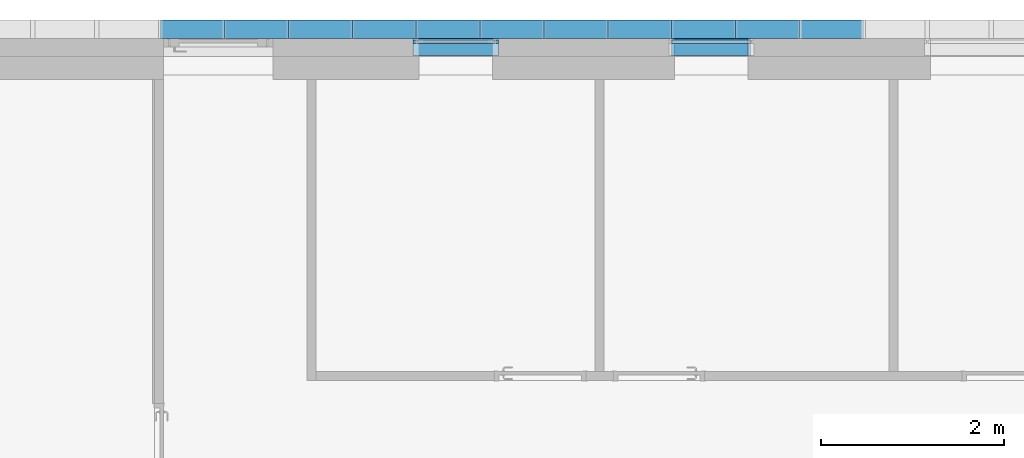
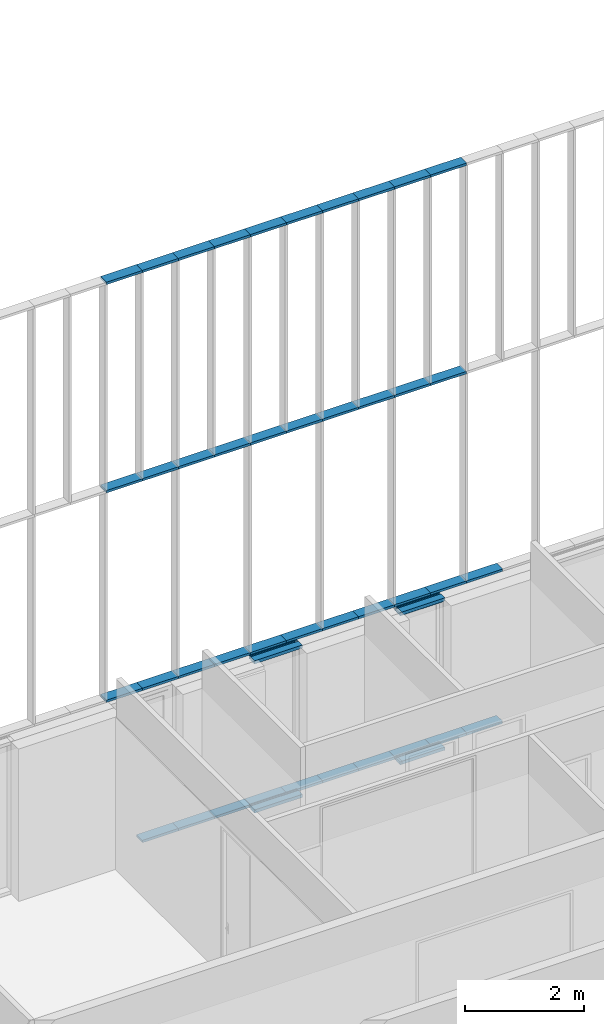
# One storey, part 41 of 240: 47 members, 3 elements without a shape of their own.
"""IFC2X3 building model written with IfcOpenShell, lengths in centimetres."""

from ifc_helpers import new_model, entity, si_unit, converted_unit, derived_unit, direction, frame, origin, origin_2d_with_axis, place, context, subcontext, project, spatial, polyline, rectangle, outline, extrude, source, transform, mapped, material, type_object, type_shapes, element, aggregate, save


model = new_model("IFC2X3")

# Units and contexts
model_context = context("Model", 3, precision=0.001, world=origin(), true_north=direction((6.12303176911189e-17, 1.0)))
body_context = subcontext(model_context, "Body", "Model", "MODEL_VIEW")
ifc_project = project(units=[si_unit("LENGTHUNIT", "METRE", prefix="CENTI"), si_unit("AREAUNIT", "SQUARE_METRE"), si_unit("VOLUMEUNIT", "CUBIC_METRE"), converted_unit("PLANEANGLEUNIT", "DEGREE", entity("IfcRatioMeasure", 0.0174532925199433), si_unit("PLANEANGLEUNIT", "RADIAN"), dimensions=[0, 0, 0, 0, 0, 0, 0]), si_unit("MASSUNIT", "GRAM", prefix="KILO"), derived_unit("MASSDENSITYUNIT", [(si_unit("MASSUNIT", "GRAM", prefix="KILO"), 1), (si_unit("LENGTHUNIT", "METRE"), -3)]), si_unit("TIMEUNIT", "SECOND"), si_unit("FREQUENCYUNIT", "HERTZ"), si_unit("THERMODYNAMICTEMPERATUREUNIT", "DEGREE_CELSIUS"), derived_unit("THERMALTRANSMITTANCEUNIT", [(si_unit("MASSUNIT", "GRAM", prefix="KILO"), 1), (si_unit("THERMODYNAMICTEMPERATUREUNIT", "KELVIN"), -1), (si_unit("TIMEUNIT", "SECOND"), -3)]), derived_unit("VOLUMETRICFLOWRATEUNIT", [(si_unit("LENGTHUNIT", "METRE"), 3), (si_unit("TIMEUNIT", "SECOND"), -1)]), si_unit("ELECTRICCURRENTUNIT", "AMPERE"), si_unit("ELECTRICVOLTAGEUNIT", "VOLT"), si_unit("POWERUNIT", "WATT"), si_unit("FORCEUNIT", "NEWTON", prefix="KILO"), si_unit("ILLUMINANCEUNIT", "LUX"), si_unit("LUMINOUSFLUXUNIT", "LUMEN"), si_unit("LUMINOUSINTENSITYUNIT", "CANDELA"), derived_unit("USERDEFINED", [(si_unit("MASSUNIT", "GRAM", prefix="KILO"), -1), (si_unit("LENGTHUNIT", "METRE"), -2), (si_unit("TIMEUNIT", "SECOND"), 3), (si_unit("LUMINOUSFLUXUNIT", "LUMEN"), 1)]), derived_unit("LINEARVELOCITYUNIT", [(si_unit("LENGTHUNIT", "METRE"), 1), (si_unit("TIMEUNIT", "SECOND"), -1)]), si_unit("PRESSUREUNIT", "PASCAL"), derived_unit("USERDEFINED", [(si_unit("LENGTHUNIT", "METRE"), -2), (si_unit("MASSUNIT", "GRAM", prefix="KILO"), 1), (si_unit("TIMEUNIT", "SECOND"), -2)])], contexts=[model_context])

# Site, building, storey
site_placement = place(None, frame((-2781.94577612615, 7442.24238424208, 0.0)))
site = spatial("IfcSite", under=ifc_project, at=site_placement, Name="Default", CompositionType="ELEMENT")
building_placement = place(site_placement, origin())
building = spatial("IfcBuilding", under=site, at=building_placement, CompositionType="ELEMENT")
storey_placement = place(building_placement, origin())
storey = spatial("IfcBuildingStorey", under=building, at=storey_placement, Name="N00 - COO", CompositionType="ELEMENT", Elevation=0.0)

# Curtain wall, members
curtain_wall_type_1 = type_object("IfcCurtainWallType", Name="Mur-rideau:07 - mur rideau trame 90 cm", PredefinedType="NOTDEFINED")
curtain_wall_1_placement = place(building_placement, origin())
curtain_wall_1 = element("IfcCurtainWall", 1, at=curtain_wall_1_placement, inside=storey, type_object=curtain_wall_type_1, Name="Mur-rideau:07 - mur rideau trame 90 cm", ObjectType="Mur-rideau:07 - mur rideau trame 90 cm")
ifc_material = material(Name="Aluminium")
member_type_1 = type_object("IfcMemberType", Name="150 x 25mm Détails", PredefinedType="MEMBER")
shared_shape_1 = source(origin(), body_context, "Body", "SweptSolid", [
    extrude(outline(polyline([(-13.3333333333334, -3.24999999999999), (0.166666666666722, -3.24999999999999), (0.166666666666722, -0.868749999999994), (3.66666666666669, -0.868749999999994), (3.66666666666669, -3.25), (5.66666666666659, -3.25), (5.66666666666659, 3.24999999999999), (3.66666666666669, 3.24999999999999), (3.66666666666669, 0.86874999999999), (0.166666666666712, 0.86874999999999), (0.166666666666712, 3.25000000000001), (-13.3333333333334, 3.25000000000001), (-13.3333333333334, -3.24999999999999)])), frame((-3.24999999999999, 1.96666666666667, -83.4999999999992), z_axis=(0.0, 0.0, 1.0), x_axis=(0.0, -1.0, 0.0)), (0.0, 0.0, 1.0), 83.4999999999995),
])
type_shapes(member_type_1, [shared_shape_1])
member_1_placement = place(building_placement, frame((-7006.24987760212, 26.2000000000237, 0.0), z_axis=(-1.0, 0.0, 0.0), x_axis=(0.0, 0.0, -1.0)))
member_1 = element("IfcMember", 2, at=member_1_placement, type_object=member_type_1, material=ifc_material, Name="Meneau rectangulaire:150 x 25mm Détails", ObjectType="Meneau rectangulaire:150 x 25mm Détails", context=body_context, shape_type="MappedRepresentation", body=[
    mapped(shared_shape_1, transform((0.0, 0.0, 0.0), scale=1.0)),
])
member_type_2 = type_object("IfcMemberType", Name="150 x 25mm Détails", PredefinedType="MEMBER")
shared_shape_2 = source(origin(), body_context, "Body", "SweptSolid", [
    extrude(outline(polyline([(-13.3333333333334, -3.25000000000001), (0.166666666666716, -3.25000000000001), (0.166666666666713, -0.86874999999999), (3.66666666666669, -0.86874999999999), (3.66666666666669, -3.24999999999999), (5.66666666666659, -3.24999999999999), (5.66666666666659, 3.25), (3.66666666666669, 3.25), (3.66666666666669, 0.868749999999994), (0.166666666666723, 0.868749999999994), (0.166666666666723, 3.25000000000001), (-13.3333333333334, 3.24999999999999), (-13.3333333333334, -3.25000000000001)])), frame((-3.24999999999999, 1.96666666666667, -83.4999999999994), z_axis=(0.0, 0.0, 1.0), x_axis=(0.0, -1.0, 0.0)), (0.0, 0.0, 1.0), 83.4999999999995),
])
type_shapes(member_type_2, [shared_shape_2])
member_2_placement = place(building_placement, frame((-6922.74987760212, 26.2000000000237, 313.0), z_axis=(1.0, 0.0, 0.0), x_axis=(0.0, 0.0, 1.0)))
member_2 = element("IfcMember", 3, at=member_2_placement, type_object=member_type_2, material=ifc_material, Name="Meneau rectangulaire:150 x 25mm Détails", ObjectType="Meneau rectangulaire:150 x 25mm Détails", context=body_context, shape_type="MappedRepresentation", body=[
    mapped(shared_shape_2, transform((0.0, 0.0, 0.0), scale=1.0)),
])
member_type_3 = type_object("IfcMemberType", Name="150 x 25mm Détails", PredefinedType="MEMBER")
shared_shape_3 = source(origin(), body_context, "Body", "SweptSolid", [
    extrude(outline(polyline([(-13.3333333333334, -3.24999999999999), (0.166666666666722, -3.24999999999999), (0.166666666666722, -0.868749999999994), (3.66666666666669, -0.868749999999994), (3.66666666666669, -3.25), (5.66666666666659, -3.25), (5.66666666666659, 3.24999999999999), (3.66666666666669, 3.24999999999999), (3.66666666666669, 0.86874999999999), (0.166666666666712, 0.86874999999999), (0.166666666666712, 3.25000000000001), (-13.3333333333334, 3.25000000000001), (-13.3333333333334, -3.24999999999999)])), frame((-3.24999999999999, 1.96666666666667, -83.5000000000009), z_axis=(0.0, 0.0, 1.0), x_axis=(0.0, -1.0, 0.0)), (0.0, 0.0, 1.0), 83.5000000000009),
])
type_shapes(member_type_3, [shared_shape_3])
member_3_placement = place(building_placement, frame((-7009.49987760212, 26.2000000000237, 306.0), z_axis=(-1.0, 0.0, 0.0), x_axis=(0.0, 0.0, -1.0)))
member_3 = element("IfcMember", 4, at=member_3_placement, type_object=member_type_3, material=ifc_material, Name="Meneau rectangulaire:150 x 25mm Détails", ObjectType="Meneau rectangulaire:150 x 25mm Détails", context=body_context, shape_type="MappedRepresentation", body=[
    mapped(shared_shape_3, transform((0.0, 0.0, 0.0), scale=1.0)),
])
member_type_4 = type_object("IfcMemberType", Name="150 x 25mm Détails", PredefinedType="MEMBER")
shared_shape_4 = source(origin(), body_context, "Body", "SweptSolid", [
    extrude(outline(polyline([(-13.3333333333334, -3.25000000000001), (0.166666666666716, -3.25000000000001), (0.166666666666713, -0.86874999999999), (3.66666666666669, -0.86874999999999), (3.66666666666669, -3.24999999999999), (5.66666666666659, -3.24999999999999), (5.66666666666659, 3.25), (3.66666666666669, 3.25), (3.66666666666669, 0.868749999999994), (0.166666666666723, 0.868749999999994), (0.166666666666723, 3.25000000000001), (-13.3333333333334, 3.24999999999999), (-13.3333333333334, -3.25000000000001)])), frame((-3.24999999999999, 1.96666666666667, -83.5000000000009), z_axis=(0.0, 0.0, 1.0), x_axis=(0.0, -1.0, 0.0)), (0.0, 0.0, 1.0), 83.5000000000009),
])
type_shapes(member_type_4, [shared_shape_4])
member_4_placement = place(building_placement, frame((-6925.99987760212, 26.2000000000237, 6.5), z_axis=(1.0, 0.0, 0.0), x_axis=(0.0, 0.0, 1.0)))
member_4 = element("IfcMember", 5, at=member_4_placement, type_object=member_type_4, material=ifc_material, Name="Meneau rectangulaire:150 x 25mm Détails", ObjectType="Meneau rectangulaire:150 x 25mm Détails", context=body_context, shape_type="MappedRepresentation", body=[
    mapped(shared_shape_4, transform((0.0, 0.0, 0.0), scale=1.0)),
])
aggregate(curtain_wall_1, [member_1, member_2, member_3, member_4])

curtain_wall_2_placement = place(building_placement, origin())
curtain_wall_2 = element("IfcCurtainWall", 6, at=curtain_wall_2_placement, inside=storey, type_object=curtain_wall_type_1, Name="Mur-rideau:07 - mur rideau trame 90 cm", ObjectType="Mur-rideau:07 - mur rideau trame 90 cm")
member_type_5 = type_object("IfcMemberType", Name="150 x 25mm Détails", PredefinedType="MEMBER")
shared_shape_5 = source(origin(), body_context, "Body", "SweptSolid", [
    extrude(outline(polyline([(-13.3333333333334, -3.24999999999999), (0.166666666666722, -3.24999999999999), (0.166666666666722, -0.868749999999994), (3.66666666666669, -0.868749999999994), (3.66666666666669, -3.25), (5.66666666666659, -3.25), (5.66666666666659, 3.24999999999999), (3.66666666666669, 3.24999999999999), (3.66666666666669, 0.86874999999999), (0.166666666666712, 0.86874999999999), (0.166666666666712, 3.25000000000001), (-13.3333333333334, 3.25000000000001), (-13.3333333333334, -3.24999999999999)])), frame((-3.24999999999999, 1.96666666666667, -93.25000003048), z_axis=(0.0, 0.0, 1.0), x_axis=(0.0, -1.0, 0.0)), (0.0, 0.0, 1.0), 93.25000003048),
])
type_shapes(member_type_5, [shared_shape_5])
member_5_placement = place(building_placement, frame((-7292.74987760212, 26.2000000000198, 0.0), z_axis=(-1.0, 0.0, 0.0), x_axis=(0.0, 0.0, -1.0)))
member_5 = element("IfcMember", 7, at=member_5_placement, type_object=member_type_5, material=ifc_material, Name="Meneau rectangulaire:150 x 25mm Détails", ObjectType="Meneau rectangulaire:150 x 25mm Détails", context=body_context, shape_type="MappedRepresentation", body=[
    mapped(shared_shape_5, transform((0.0, 0.0, 0.0), scale=1.0)),
])
member_type_6 = type_object("IfcMemberType", Name="150 x 25mm Détails", PredefinedType="MEMBER")
shared_shape_6 = source(origin(), body_context, "Body", "SweptSolid", [
    extrude(outline(polyline([(-13.3333333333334, -3.25000000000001), (0.166666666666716, -3.25000000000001), (0.166666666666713, -0.86874999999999), (3.66666666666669, -0.86874999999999), (3.66666666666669, -3.24999999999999), (5.66666666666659, -3.24999999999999), (5.66666666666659, 3.25), (3.66666666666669, 3.25), (3.66666666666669, 0.868749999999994), (0.166666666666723, 0.868749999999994), (0.166666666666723, 3.25000000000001), (-13.3333333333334, 3.24999999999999), (-13.3333333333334, -3.25000000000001)])), frame((-3.24999999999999, 1.96666666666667, -93.2500000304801), z_axis=(0.0, 0.0, 1.0), x_axis=(0.0, -1.0, 0.0)), (0.0, 0.0, 1.0), 93.25000003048),
])
type_shapes(member_type_6, [shared_shape_6])
member_6_placement = place(building_placement, frame((-7199.49987757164, 26.2000000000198, 313.0), z_axis=(1.0, 0.0, 0.0), x_axis=(0.0, 0.0, 1.0)))
member_6 = element("IfcMember", 8, at=member_6_placement, type_object=member_type_6, material=ifc_material, Name="Meneau rectangulaire:150 x 25mm Détails", ObjectType="Meneau rectangulaire:150 x 25mm Détails", context=body_context, shape_type="MappedRepresentation", body=[
    mapped(shared_shape_6, transform((0.0, 0.0, 0.0), scale=1.0)),
])
aggregate(curtain_wall_2, [member_5, member_6])

curtain_wall_type_2 = type_object("IfcCurtainWallType", Name="Mur-rideau:Epines - 200x50mm", PredefinedType="NOTDEFINED")
curtain_wall_3_placement = place(building_placement, origin())
curtain_wall_3 = element("IfcCurtainWall", 9, at=curtain_wall_3_placement, inside=storey, type_object=curtain_wall_type_2, Name="Mur-rideau:Epines - 200x50mm", ObjectType="Mur-rideau:Epines - 200x50mm")
member_type_7 = type_object("IfcMemberType", Name="200x50 mm", PredefinedType="MEMBER")
shared_shape_7 = source(origin(), body_context, "Body", "SweptSolid", [
    extrude(rectangle(XDim=20.0, YDim=5.0, at=origin_2d_with_axis()), frame((-2.5, 0.0, -70.0), z_axis=(0.0, 0.0, 1.0), x_axis=(0.0, -1.0, 0.0)), (0.0, 0.0, 1.0), 70.0000000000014),
])
type_shapes(member_type_7, [shared_shape_7])
member_7_placement = place(building_placement, frame((-7009.49987760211, 40.0, 1176.0), z_axis=(1.0, 0.0, 0.0), x_axis=(0.0, 0.0, 1.0)))
member_7 = element("IfcMember", 10, at=member_7_placement, type_object=member_type_7, material=ifc_material, Name="Meneau rectangulaire:200x50 mm", ObjectType="Meneau rectangulaire:200x50 mm", context=body_context, shape_type="MappedRepresentation", body=[
    mapped(shared_shape_7, transform((0.0, 0.0, 0.0), scale=1.0)),
])
member_8_placement = place(building_placement, frame((-7289.49987760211, 40.0, 1176.0), z_axis=(1.0, 0.0, 0.0), x_axis=(0.0, 0.0, 1.0)))
member_8 = element("IfcMember", 11, at=member_8_placement, type_object=member_type_7, material=ifc_material, Name="Meneau rectangulaire:200x50 mm", ObjectType="Meneau rectangulaire:200x50 mm", context=body_context, shape_type="MappedRepresentation", body=[
    mapped(shared_shape_7, transform((0.0, 0.0, 0.0), scale=1.0)),
])
member_9_placement = place(building_placement, frame((-6869.49987760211, 40.0, 1176.0), z_axis=(1.0, 0.0, 0.0), x_axis=(0.0, 0.0, 1.0)))
member_9 = element("IfcMember", 12, at=member_9_placement, type_object=member_type_7, material=ifc_material, Name="Meneau rectangulaire:200x50 mm", ObjectType="Meneau rectangulaire:200x50 mm", context=body_context, shape_type="MappedRepresentation", body=[
    mapped(shared_shape_7, transform((0.0, 0.0, 0.0), scale=1.0)),
])
member_10_placement = place(building_placement, frame((-7149.49987760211, 40.0, 1176.0), z_axis=(1.0, 0.0, 0.0), x_axis=(0.0, 0.0, 1.0)))
member_10 = element("IfcMember", 13, at=member_10_placement, type_object=member_type_7, material=ifc_material, Name="Meneau rectangulaire:200x50 mm", ObjectType="Meneau rectangulaire:200x50 mm", context=body_context, shape_type="MappedRepresentation", body=[
    mapped(shared_shape_7, transform((0.0, 0.0, 0.0), scale=1.0)),
])
member_11_placement = place(building_placement, frame((-7429.49987760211, 40.0, 1176.0), z_axis=(1.0, 0.0, 0.0), x_axis=(0.0, 0.0, 1.0)))
member_11 = element("IfcMember", 14, at=member_11_placement, type_object=member_type_7, material=ifc_material, Name="Meneau rectangulaire:200x50 mm", ObjectType="Meneau rectangulaire:200x50 mm", context=body_context, shape_type="MappedRepresentation", body=[
    mapped(shared_shape_7, transform((0.0, 0.0, 0.0), scale=1.0)),
])
member_12_placement = place(building_placement, frame((-6939.49987760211, 40.0, 1176.0), z_axis=(1.0, 0.0, 0.0), x_axis=(0.0, 0.0, 1.0)))
member_12 = element("IfcMember", 15, at=member_12_placement, type_object=member_type_7, material=ifc_material, Name="Meneau rectangulaire:200x50 mm", ObjectType="Meneau rectangulaire:200x50 mm", context=body_context, shape_type="MappedRepresentation", body=[
    mapped(shared_shape_7, transform((0.0, 0.0, 0.0), scale=1.0)),
])
member_13_placement = place(building_placement, frame((-7079.49987760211, 40.0, 1176.0), z_axis=(1.0, 0.0, 0.0), x_axis=(0.0, 0.0, 1.0)))
member_13 = element("IfcMember", 16, at=member_13_placement, type_object=member_type_7, material=ifc_material, Name="Meneau rectangulaire:200x50 mm", ObjectType="Meneau rectangulaire:200x50 mm", context=body_context, shape_type="MappedRepresentation", body=[
    mapped(shared_shape_7, transform((0.0, 0.0, 0.0), scale=1.0)),
])
member_14_placement = place(building_placement, frame((-7219.49987760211, 40.0, 1176.0), z_axis=(1.0, 0.0, 0.0), x_axis=(0.0, 0.0, 1.0)))
member_14 = element("IfcMember", 17, at=member_14_placement, type_object=member_type_7, material=ifc_material, Name="Meneau rectangulaire:200x50 mm", ObjectType="Meneau rectangulaire:200x50 mm", context=body_context, shape_type="MappedRepresentation", body=[
    mapped(shared_shape_7, transform((0.0, 0.0, 0.0), scale=1.0)),
])
member_15_placement = place(building_placement, frame((-7359.49987760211, 40.0, 1176.0), z_axis=(1.0, 0.0, 0.0), x_axis=(0.0, 0.0, 1.0)))
member_15 = element("IfcMember", 18, at=member_15_placement, type_object=member_type_7, material=ifc_material, Name="Meneau rectangulaire:200x50 mm", ObjectType="Meneau rectangulaire:200x50 mm", context=body_context, shape_type="MappedRepresentation", body=[
    mapped(shared_shape_7, transform((0.0, 0.0, 0.0), scale=1.0)),
])
member_16_placement = place(building_placement, frame((-7499.49987760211, 40.0, 1176.0), z_axis=(1.0, 0.0, 0.0), x_axis=(0.0, 0.0, 1.0)))
member_16 = element("IfcMember", 19, at=member_16_placement, type_object=member_type_7, material=ifc_material, Name="Meneau rectangulaire:200x50 mm", ObjectType="Meneau rectangulaire:200x50 mm", context=body_context, shape_type="MappedRepresentation", body=[
    mapped(shared_shape_7, transform((0.0, 0.0, 0.0), scale=1.0)),
])
member_type_8 = type_object("IfcMemberType", Name="200x50 mm", PredefinedType="MEMBER")
shared_shape_8 = source(origin(), body_context, "Body", "SweptSolid", [
    extrude(rectangle(XDim=20.0, YDim=5.0, at=origin_2d_with_axis()), frame((-2.5, 0.0, -70.0), z_axis=(0.0, 0.0, 1.0), x_axis=(0.0, -1.0, 0.0)), (0.0, 0.0, 1.0), 70.0000000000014),
])
type_shapes(member_type_8, [shared_shape_8])
member_17_placement = place(building_placement, frame((-7009.49987760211, 40.0, 0.0), z_axis=(-1.0, 0.0, 0.0), x_axis=(0.0, 0.0, -1.0)))
member_17 = element("IfcMember", 20, at=member_17_placement, type_object=member_type_8, material=ifc_material, Name="Meneau rectangulaire:200x50 mm", ObjectType="Meneau rectangulaire:200x50 mm", context=body_context, shape_type="MappedRepresentation", body=[
    mapped(shared_shape_8, transform((0.0, 0.0, 0.0), scale=1.0)),
])
member_18_placement = place(building_placement, frame((-7289.49987760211, 40.0, 0.0), z_axis=(-1.0, 0.0, 0.0), x_axis=(0.0, 0.0, -1.0)))
member_18 = element("IfcMember", 21, at=member_18_placement, type_object=member_type_8, material=ifc_material, Name="Meneau rectangulaire:200x50 mm", ObjectType="Meneau rectangulaire:200x50 mm", context=body_context, shape_type="MappedRepresentation", body=[
    mapped(shared_shape_8, transform((0.0, 0.0, 0.0), scale=1.0)),
])
member_type_9 = type_object("IfcMemberType", Name="200x50 mm", PredefinedType="MEMBER")
shared_shape_9 = source(origin(), body_context, "Body", "SweptSolid", [
    extrude(rectangle(XDim=20.0, YDim=5.0, at=origin_2d_with_axis()), frame((0.0, 0.0, -70.0), z_axis=(0.0, 0.0, 1.0), x_axis=(0.0, -1.0, 0.0)), (0.0, 0.0, 1.0), 70.0000000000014),
])
type_shapes(member_type_9, [shared_shape_9])
member_19_placement = place(building_placement, frame((-6939.49987760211, 40.0, 315.0), z_axis=(1.0, 0.0, 0.0), x_axis=(0.0, 0.0, 1.0)))
member_19 = element("IfcMember", 22, at=member_19_placement, type_object=member_type_9, material=ifc_material, Name="Meneau rectangulaire:200x50 mm", ObjectType="Meneau rectangulaire:200x50 mm", context=body_context, shape_type="MappedRepresentation", body=[
    mapped(shared_shape_9, transform((0.0, 0.0, 0.0), scale=1.0)),
])
member_20_placement = place(building_placement, frame((-7219.49987760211, 40.0, 315.0), z_axis=(1.0, 0.0, 0.0), x_axis=(0.0, 0.0, 1.0)))
member_20 = element("IfcMember", 23, at=member_20_placement, type_object=member_type_9, material=ifc_material, Name="Meneau rectangulaire:200x50 mm", ObjectType="Meneau rectangulaire:200x50 mm", context=body_context, shape_type="MappedRepresentation", body=[
    mapped(shared_shape_9, transform((0.0, 0.0, 0.0), scale=1.0)),
])
member_21_placement = place(building_placement, frame((-7499.49987760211, 40.0, 315.0), z_axis=(1.0, 0.0, 0.0), x_axis=(0.0, 0.0, 1.0)))
member_21 = element("IfcMember", 24, at=member_21_placement, type_object=member_type_9, material=ifc_material, Name="Meneau rectangulaire:200x50 mm", ObjectType="Meneau rectangulaire:200x50 mm", context=body_context, shape_type="MappedRepresentation", body=[
    mapped(shared_shape_9, transform((0.0, 0.0, 0.0), scale=1.0)),
])
member_22_placement = place(building_placement, frame((-6799.49987760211, 40.0, 315.0), z_axis=(1.0, 0.0, 0.0), x_axis=(0.0, 0.0, 1.0)))
member_22 = element("IfcMember", 25, at=member_22_placement, type_object=member_type_9, material=ifc_material, Name="Meneau rectangulaire:200x50 mm", ObjectType="Meneau rectangulaire:200x50 mm", context=body_context, shape_type="MappedRepresentation", body=[
    mapped(shared_shape_9, transform((0.0, 0.0, 0.0), scale=1.0)),
])
member_23_placement = place(building_placement, frame((-7079.49987760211, 40.0, 315.0), z_axis=(1.0, 0.0, 0.0), x_axis=(0.0, 0.0, 1.0)))
member_23 = element("IfcMember", 26, at=member_23_placement, type_object=member_type_9, material=ifc_material, Name="Meneau rectangulaire:200x50 mm", ObjectType="Meneau rectangulaire:200x50 mm", context=body_context, shape_type="MappedRepresentation", body=[
    mapped(shared_shape_9, transform((0.0, 0.0, 0.0), scale=1.0)),
])
member_24_placement = place(building_placement, frame((-7359.49987760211, 40.0, 315.0), z_axis=(1.0, 0.0, 0.0), x_axis=(0.0, 0.0, 1.0)))
member_24 = element("IfcMember", 27, at=member_24_placement, type_object=member_type_9, material=ifc_material, Name="Meneau rectangulaire:200x50 mm", ObjectType="Meneau rectangulaire:200x50 mm", context=body_context, shape_type="MappedRepresentation", body=[
    mapped(shared_shape_9, transform((0.0, 0.0, 0.0), scale=1.0)),
])
member_type_10 = type_object("IfcMemberType", Name="200x50 mm", PredefinedType="MEMBER")
shared_shape_10 = source(origin(), body_context, "Body", "SweptSolid", [
    extrude(rectangle(XDim=20.0, YDim=5.0, at=origin_2d_with_axis()), frame((0.0, 0.0, -70.0), z_axis=(0.0, 0.0, 1.0), x_axis=(0.0, -1.0, 0.0)), (0.0, 0.0, 1.0), 70.0000000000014),
])
type_shapes(member_type_10, [shared_shape_10])
member_25_placement = place(building_placement, frame((-6939.49987760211, 40.0, 745.5), z_axis=(1.0, 0.0, 0.0), x_axis=(0.0, 0.0, 1.0)))
member_25 = element("IfcMember", 28, at=member_25_placement, type_object=member_type_10, material=ifc_material, Name="Meneau rectangulaire:200x50 mm", ObjectType="Meneau rectangulaire:200x50 mm", context=body_context, shape_type="MappedRepresentation", body=[
    mapped(shared_shape_10, transform((0.0, 0.0, 0.0), scale=1.0)),
])
member_26_placement = place(building_placement, frame((-7219.49987760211, 40.0, 745.5), z_axis=(1.0, 0.0, 0.0), x_axis=(0.0, 0.0, 1.0)))
member_26 = element("IfcMember", 29, at=member_26_placement, type_object=member_type_10, material=ifc_material, Name="Meneau rectangulaire:200x50 mm", ObjectType="Meneau rectangulaire:200x50 mm", context=body_context, shape_type="MappedRepresentation", body=[
    mapped(shared_shape_10, transform((0.0, 0.0, 0.0), scale=1.0)),
])
member_27_placement = place(building_placement, frame((-7499.49987760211, 40.0, 745.5), z_axis=(1.0, 0.0, 0.0), x_axis=(0.0, 0.0, 1.0)))
member_27 = element("IfcMember", 30, at=member_27_placement, type_object=member_type_10, material=ifc_material, Name="Meneau rectangulaire:200x50 mm", ObjectType="Meneau rectangulaire:200x50 mm", context=body_context, shape_type="MappedRepresentation", body=[
    mapped(shared_shape_10, transform((0.0, 0.0, 0.0), scale=1.0)),
])
member_28_placement = place(building_placement, frame((-7079.49987760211, 40.0, 745.5), z_axis=(1.0, 0.0, 0.0), x_axis=(0.0, 0.0, 1.0)))
member_28 = element("IfcMember", 31, at=member_28_placement, type_object=member_type_10, material=ifc_material, Name="Meneau rectangulaire:200x50 mm", ObjectType="Meneau rectangulaire:200x50 mm", context=body_context, shape_type="MappedRepresentation", body=[
    mapped(shared_shape_10, transform((0.0, 0.0, 0.0), scale=1.0)),
])
member_29_placement = place(building_placement, frame((-7359.49987760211, 40.0, 745.5), z_axis=(1.0, 0.0, 0.0), x_axis=(0.0, 0.0, 1.0)))
member_29 = element("IfcMember", 32, at=member_29_placement, type_object=member_type_10, material=ifc_material, Name="Meneau rectangulaire:200x50 mm", ObjectType="Meneau rectangulaire:200x50 mm", context=body_context, shape_type="MappedRepresentation", body=[
    mapped(shared_shape_10, transform((0.0, 0.0, 0.0), scale=1.0)),
])
member_30_placement = place(building_placement, frame((-6869.49987760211, 40.0, 745.5), z_axis=(1.0, 0.0, 0.0), x_axis=(0.0, 0.0, 1.0)))
member_30 = element("IfcMember", 33, at=member_30_placement, type_object=member_type_10, material=ifc_material, Name="Meneau rectangulaire:200x50 mm", ObjectType="Meneau rectangulaire:200x50 mm", context=body_context, shape_type="MappedRepresentation", body=[
    mapped(shared_shape_10, transform((0.0, 0.0, 0.0), scale=1.0)),
])
member_31_placement = place(building_placement, frame((-7009.49987760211, 40.0, 745.5), z_axis=(1.0, 0.0, 0.0), x_axis=(0.0, 0.0, 1.0)))
member_31 = element("IfcMember", 34, at=member_31_placement, type_object=member_type_10, material=ifc_material, Name="Meneau rectangulaire:200x50 mm", ObjectType="Meneau rectangulaire:200x50 mm", context=body_context, shape_type="MappedRepresentation", body=[
    mapped(shared_shape_10, transform((0.0, 0.0, 0.0), scale=1.0)),
])
member_32_placement = place(building_placement, frame((-7149.49987760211, 40.0, 745.5), z_axis=(1.0, 0.0, 0.0), x_axis=(0.0, 0.0, 1.0)))
member_32 = element("IfcMember", 35, at=member_32_placement, type_object=member_type_10, material=ifc_material, Name="Meneau rectangulaire:200x50 mm", ObjectType="Meneau rectangulaire:200x50 mm", context=body_context, shape_type="MappedRepresentation", body=[
    mapped(shared_shape_10, transform((0.0, 0.0, 0.0), scale=1.0)),
])
member_33_placement = place(building_placement, frame((-7289.49987760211, 40.0, 745.5), z_axis=(1.0, 0.0, 0.0), x_axis=(0.0, 0.0, 1.0)))
member_33 = element("IfcMember", 36, at=member_33_placement, type_object=member_type_10, material=ifc_material, Name="Meneau rectangulaire:200x50 mm", ObjectType="Meneau rectangulaire:200x50 mm", context=body_context, shape_type="MappedRepresentation", body=[
    mapped(shared_shape_10, transform((0.0, 0.0, 0.0), scale=1.0)),
])
member_34_placement = place(building_placement, frame((-7429.49987760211, 40.0, 745.5), z_axis=(1.0, 0.0, 0.0), x_axis=(0.0, 0.0, 1.0)))
member_34 = element("IfcMember", 37, at=member_34_placement, type_object=member_type_10, material=ifc_material, Name="Meneau rectangulaire:200x50 mm", ObjectType="Meneau rectangulaire:200x50 mm", context=body_context, shape_type="MappedRepresentation", body=[
    mapped(shared_shape_10, transform((0.0, 0.0, 0.0), scale=1.0)),
])
member_type_11 = type_object("IfcMemberType", Name="200x50 mm", PredefinedType="MEMBER")
shared_shape_11 = source(origin(), body_context, "Body", "SweptSolid", [
    extrude(rectangle(XDim=20.0, YDim=5.0, at=origin_2d_with_axis()), frame((-2.5, 0.0, -70.0), z_axis=(0.0, 0.0, 1.0), x_axis=(0.0, -1.0, 0.0)), (0.0, 0.0, 1.0), 69.9999999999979),
])
type_shapes(member_type_11, [shared_shape_11])
member_35_placement = place(building_placement, frame((-6869.49987760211, 40.0, 0.0), z_axis=(-1.0, 0.0, 0.0), x_axis=(0.0, 0.0, -1.0)))
member_35 = element("IfcMember", 38, at=member_35_placement, type_object=member_type_11, material=ifc_material, Name="Meneau rectangulaire:200x50 mm", ObjectType="Meneau rectangulaire:200x50 mm", context=body_context, shape_type="MappedRepresentation", body=[
    mapped(shared_shape_11, transform((0.0, 0.0, 0.0), scale=1.0)),
])
member_36_placement = place(building_placement, frame((-7149.49987760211, 40.0, 0.0), z_axis=(-1.0, 0.0, 0.0), x_axis=(0.0, 0.0, -1.0)))
member_36 = element("IfcMember", 39, at=member_36_placement, type_object=member_type_11, material=ifc_material, Name="Meneau rectangulaire:200x50 mm", ObjectType="Meneau rectangulaire:200x50 mm", context=body_context, shape_type="MappedRepresentation", body=[
    mapped(shared_shape_11, transform((0.0, 0.0, 0.0), scale=1.0)),
])
member_37_placement = place(building_placement, frame((-7429.49987760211, 40.0, 0.0), z_axis=(-1.0, 0.0, 0.0), x_axis=(0.0, 0.0, -1.0)))
member_37 = element("IfcMember", 40, at=member_37_placement, type_object=member_type_11, material=ifc_material, Name="Meneau rectangulaire:200x50 mm", ObjectType="Meneau rectangulaire:200x50 mm", context=body_context, shape_type="MappedRepresentation", body=[
    mapped(shared_shape_11, transform((0.0, 0.0, 0.0), scale=1.0)),
])
member_38_placement = place(building_placement, frame((-6939.49987760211, 40.0, 0.0), z_axis=(-1.0, 0.0, 0.0), x_axis=(0.0, 0.0, -1.0)))
member_38 = element("IfcMember", 41, at=member_38_placement, type_object=member_type_11, material=ifc_material, Name="Meneau rectangulaire:200x50 mm", ObjectType="Meneau rectangulaire:200x50 mm", context=body_context, shape_type="MappedRepresentation", body=[
    mapped(shared_shape_11, transform((0.0, 0.0, 0.0), scale=1.0)),
])
member_39_placement = place(building_placement, frame((-7219.49987760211, 40.0, 0.0), z_axis=(-1.0, 0.0, 0.0), x_axis=(0.0, 0.0, -1.0)))
member_39 = element("IfcMember", 42, at=member_39_placement, type_object=member_type_11, material=ifc_material, Name="Meneau rectangulaire:200x50 mm", ObjectType="Meneau rectangulaire:200x50 mm", context=body_context, shape_type="MappedRepresentation", body=[
    mapped(shared_shape_11, transform((0.0, 0.0, 0.0), scale=1.0)),
])
member_40_placement = place(building_placement, frame((-7499.49987760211, 40.0, 0.0), z_axis=(-1.0, 0.0, 0.0), x_axis=(0.0, 0.0, -1.0)))
member_40 = element("IfcMember", 43, at=member_40_placement, type_object=member_type_11, material=ifc_material, Name="Meneau rectangulaire:200x50 mm", ObjectType="Meneau rectangulaire:200x50 mm", context=body_context, shape_type="MappedRepresentation", body=[
    mapped(shared_shape_11, transform((0.0, 0.0, 0.0), scale=1.0)),
])
member_type_12 = type_object("IfcMemberType", Name="200x50 mm", PredefinedType="MEMBER")
shared_shape_12 = source(origin(), body_context, "Body", "SweptSolid", [
    extrude(rectangle(XDim=20.0, YDim=5.0, at=origin_2d_with_axis()), frame((0.0, 0.0, -70.0), z_axis=(0.0, 0.0, 1.0), x_axis=(0.0, -1.0, 0.0)), (0.0, 0.0, 1.0), 70.0000000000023),
])
type_shapes(member_type_12, [shared_shape_12])
member_41_placement = place(building_placement, frame((-6869.49987760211, 40.0, 315.0), z_axis=(1.0, 0.0, 0.0), x_axis=(0.0, 0.0, 1.0)))
member_41 = element("IfcMember", 44, at=member_41_placement, type_object=member_type_12, material=ifc_material, Name="Meneau rectangulaire:200x50 mm", ObjectType="Meneau rectangulaire:200x50 mm", context=body_context, shape_type="MappedRepresentation", body=[
    mapped(shared_shape_12, transform((0.0, 0.0, 0.0), scale=1.0)),
])
member_42_placement = place(building_placement, frame((-7009.49987760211, 40.0, 315.0), z_axis=(1.0, 0.0, 0.0), x_axis=(0.0, 0.0, 1.0)))
member_42 = element("IfcMember", 45, at=member_42_placement, type_object=member_type_12, material=ifc_material, Name="Meneau rectangulaire:200x50 mm", ObjectType="Meneau rectangulaire:200x50 mm", context=body_context, shape_type="MappedRepresentation", body=[
    mapped(shared_shape_12, transform((0.0, 0.0, 0.0), scale=1.0)),
])
member_43_placement = place(building_placement, frame((-7149.49987760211, 40.0, 315.0), z_axis=(1.0, 0.0, 0.0), x_axis=(0.0, 0.0, 1.0)))
member_43 = element("IfcMember", 46, at=member_43_placement, type_object=member_type_12, material=ifc_material, Name="Meneau rectangulaire:200x50 mm", ObjectType="Meneau rectangulaire:200x50 mm", context=body_context, shape_type="MappedRepresentation", body=[
    mapped(shared_shape_12, transform((0.0, 0.0, 0.0), scale=1.0)),
])
member_44_placement = place(building_placement, frame((-7289.49987760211, 40.0, 315.0), z_axis=(1.0, 0.0, 0.0), x_axis=(0.0, 0.0, 1.0)))
member_44 = element("IfcMember", 47, at=member_44_placement, type_object=member_type_12, material=ifc_material, Name="Meneau rectangulaire:200x50 mm", ObjectType="Meneau rectangulaire:200x50 mm", context=body_context, shape_type="MappedRepresentation", body=[
    mapped(shared_shape_12, transform((0.0, 0.0, 0.0), scale=1.0)),
])
member_45_placement = place(building_placement, frame((-7429.49987760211, 40.0, 315.0), z_axis=(1.0, 0.0, 0.0), x_axis=(0.0, 0.0, 1.0)))
member_45 = element("IfcMember", 48, at=member_45_placement, type_object=member_type_12, material=ifc_material, Name="Meneau rectangulaire:200x50 mm", ObjectType="Meneau rectangulaire:200x50 mm", context=body_context, shape_type="MappedRepresentation", body=[
    mapped(shared_shape_12, transform((0.0, 0.0, 0.0), scale=1.0)),
])
member_type_13 = type_object("IfcMemberType", Name="200x50 mm", PredefinedType="MEMBER")
shared_shape_13 = source(origin(), body_context, "Body", "SweptSolid", [
    extrude(rectangle(XDim=20.0, YDim=5.0, at=origin_2d_with_axis()), frame((-2.5, 0.0, -70.0), z_axis=(0.0, 0.0, 1.0), x_axis=(0.0, -1.0, 0.0)), (0.0, 0.0, 1.0), 70.0000000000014),
])
type_shapes(member_type_13, [shared_shape_13])
member_46_placement = place(building_placement, frame((-7079.49987760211, 40.0, 0.0), z_axis=(-1.0, 0.0, 0.0), x_axis=(0.0, 0.0, -1.0)))
member_46 = element("IfcMember", 49, at=member_46_placement, type_object=member_type_13, material=ifc_material, Name="Meneau rectangulaire:200x50 mm", ObjectType="Meneau rectangulaire:200x50 mm", context=body_context, shape_type="MappedRepresentation", body=[
    mapped(shared_shape_13, transform((0.0, 0.0, 0.0), scale=1.0)),
])
member_47_placement = place(building_placement, frame((-7359.49987760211, 40.0, 0.0), z_axis=(-1.0, 0.0, 0.0), x_axis=(0.0, 0.0, -1.0)))
member_47 = element("IfcMember", 50, at=member_47_placement, type_object=member_type_13, material=ifc_material, Name="Meneau rectangulaire:200x50 mm", ObjectType="Meneau rectangulaire:200x50 mm", context=body_context, shape_type="MappedRepresentation", body=[
    mapped(shared_shape_13, transform((0.0, 0.0, 0.0), scale=1.0)),
])
aggregate(curtain_wall_3, [member_7, member_17, member_19, member_25, member_8, member_18, member_20, member_26, member_21, member_27, member_9, member_35, member_22, member_10, member_36, member_23, member_28, member_11, member_37, member_24, member_29, member_12, member_38, member_41, member_30, member_13, member_46, member_42, member_31, member_14, member_39, member_43, member_32, member_15, member_47, member_44, member_33, member_16, member_40, member_45, member_34])

save(model, "model.ifc")
